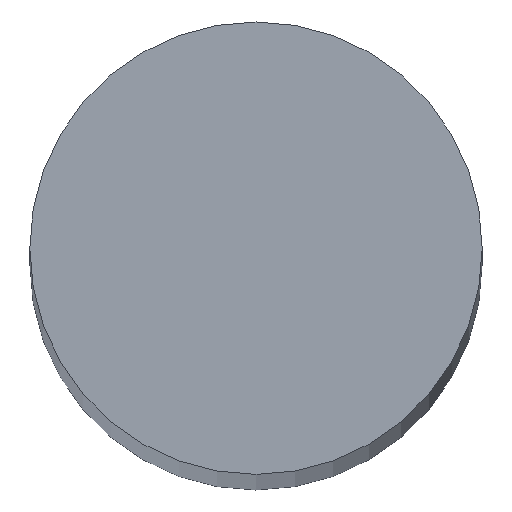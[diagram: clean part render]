
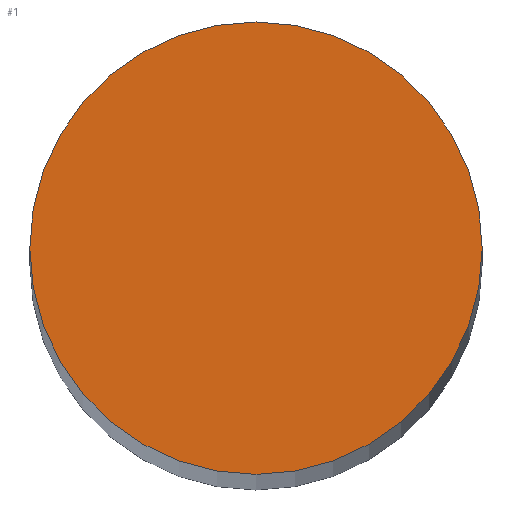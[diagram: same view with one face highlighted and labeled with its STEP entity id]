
A CAD part, top view. The second image highlights one B-rep face of the part: STEP entity #1.
In plain terms, the highlighted planar face has unit normal (0, 0, 1).
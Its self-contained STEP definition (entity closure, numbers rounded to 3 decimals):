
#1 = ADVANCED_FACE ( 'NONE', ( #10 ), #84, .T. ) ;
#10 = FACE_OUTER_BOUND ( 'NONE', #14, .T. ) ;
#14 = EDGE_LOOP ( 'NONE', ( #21, #34 ) ) ;
#21 = ORIENTED_EDGE ( 'NONE', *, *, #53, .T. ) ;
#31 = CIRCLE ( 'NONE', #70, 6. ) ;
#34 = ORIENTED_EDGE ( 'NONE', *, *, #73, .T. ) ;
#37 = CIRCLE ( 'NONE', #65, 6. ) ;
#53 = EDGE_CURVE ( 'NONE', #80, #81, #37, .T. ) ;
#60 = AXIS2_PLACEMENT_3D ( 'NONE', #79, #91, #92 ) ;
#65 = AXIS2_PLACEMENT_3D ( 'NONE', #130, #129, #128 ) ;
#70 = AXIS2_PLACEMENT_3D ( 'NONE', #125, #111, #112 ) ;
#73 = EDGE_CURVE ( 'NONE', #81, #80, #31, .T. ) ;
#79 = CARTESIAN_POINT ( 'NONE',  ( 0., 0., 118.5 ) ) ;
#80 = VERTEX_POINT ( 'NONE', #117 ) ;
#81 = VERTEX_POINT ( 'NONE', #118 ) ;
#84 = PLANE ( 'NONE',  #60 ) ;
#91 = DIRECTION ( 'NONE',  ( 0., 0., 1. ) ) ;
#92 = DIRECTION ( 'NONE',  ( 1., 0., 0. ) ) ;
#111 = DIRECTION ( 'NONE',  ( 0., 0., 1. ) ) ;
#112 = DIRECTION ( 'NONE',  ( 1., 0., 0. ) ) ;
#117 = CARTESIAN_POINT ( 'NONE',  ( -6., 0., 118.5 ) ) ;
#118 = CARTESIAN_POINT ( 'NONE',  ( 6., 0., 118.5 ) ) ;
#125 = CARTESIAN_POINT ( 'NONE',  ( 0., 0., 118.5 ) ) ;
#128 = DIRECTION ( 'NONE',  ( 1., 0., 0. ) ) ;
#129 = DIRECTION ( 'NONE',  ( 0., 0., 1. ) ) ;
#130 = CARTESIAN_POINT ( 'NONE',  ( 0., 0., 118.5 ) ) ;
